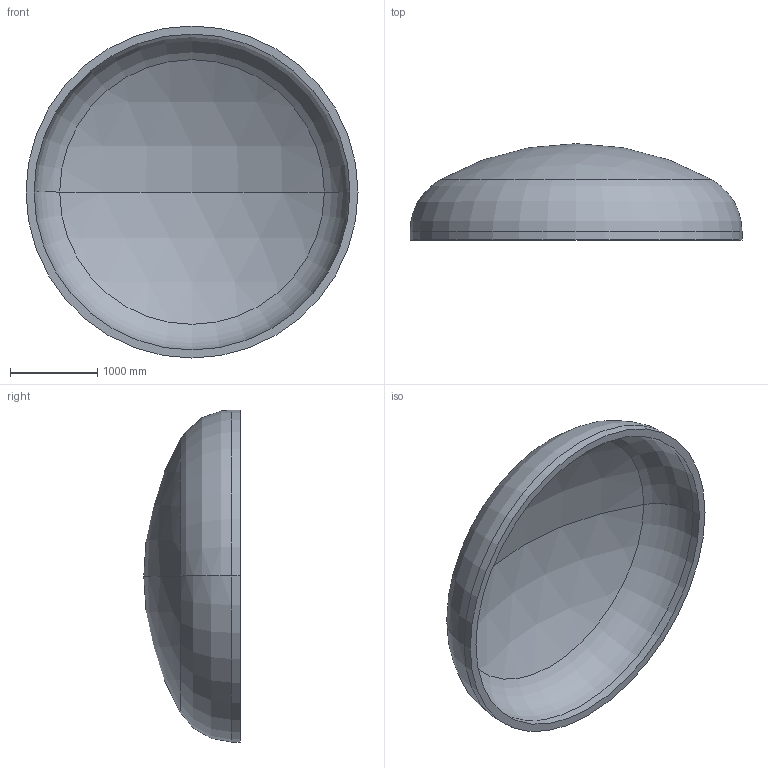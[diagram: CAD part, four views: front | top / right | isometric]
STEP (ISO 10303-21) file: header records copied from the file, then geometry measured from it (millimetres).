
FILE_DESCRIPTION (( 'STEP AP203' ), '1' );
FILE_NAME ('DIN 28013 Korbbogenform_-_Boden DIN 28013 - 3800 x 100 - I - s=92.step', '2016-07-01T21:45:15', ( '' ), ( '' ), 'SwSTEP 2.0', 'SolidWorks 2013', '' );
FILE_SCHEMA (( 'CONFIG_CONTROL_DESIGN' ));
Length unit declared in the file: millimetre
Products named in the file (1): DIN 28013 Korbbogenform_-_Boden DIN 28013 - 3800 x 100 - I - s=92
Bounding box: 3800 x 1103.32 x 3800 mm (x, y, z)
Volume: 1506955251.3 mm3; surface area: 33849322.8 mm2
Topology: 1 solids, 1 shells, 13 faces, 24 edges, 14 vertices
Faces by surface type: torus 4, cylinder 4, sphere 4, plane 1
Entity records: 407 total; most frequent: DIRECTION 72, CARTESIAN_POINT 52, ORIENTED_EDGE 48, AXIS2_PLACEMENT_3D 34, EDGE_CURVE 24, CIRCLE 20, EDGE_LOOP 14, VERTEX_POINT 14
